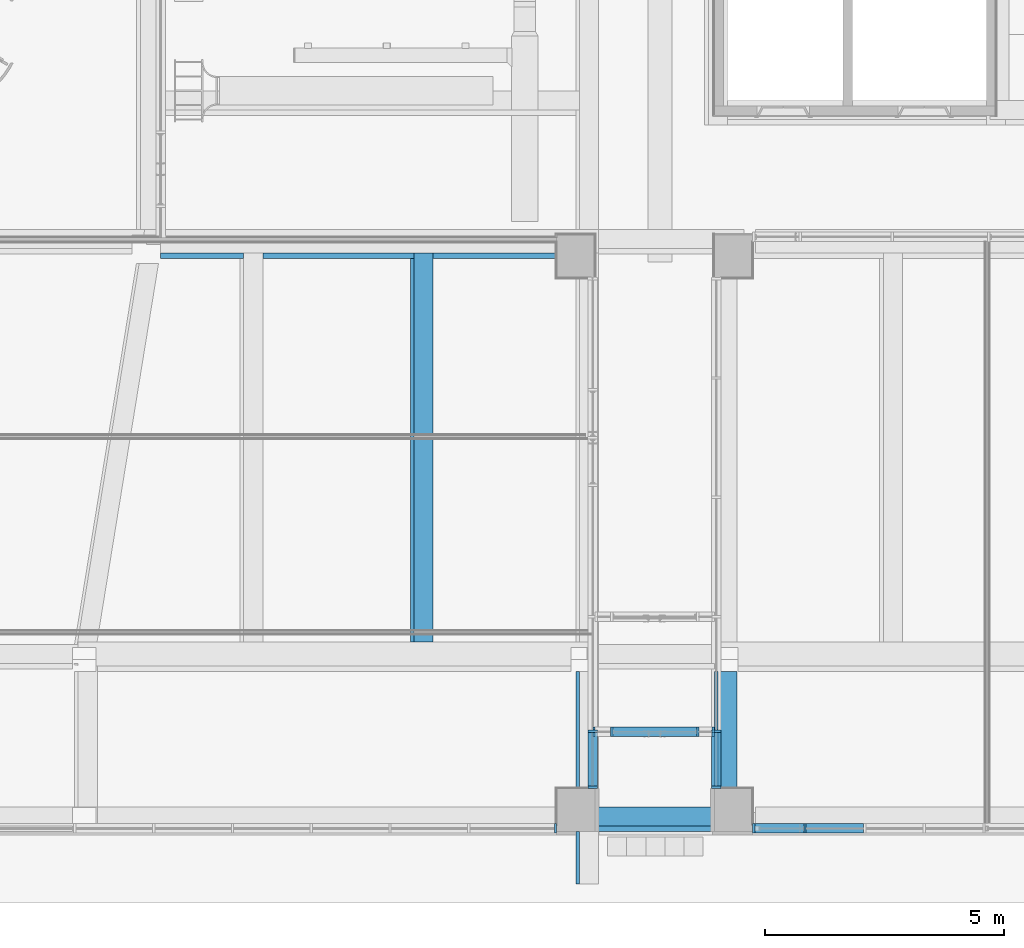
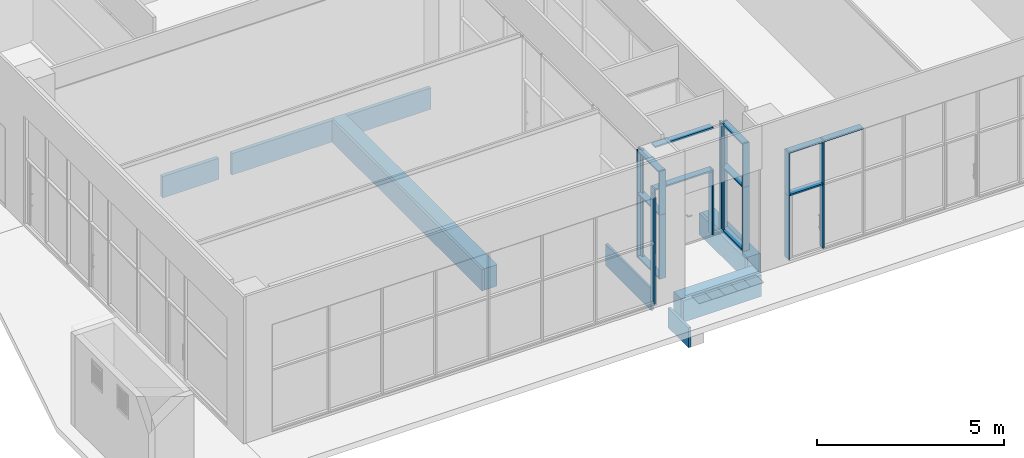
# One storey, part 4 of 100: 31 members, 9 beams, 5 elements without a shape of their own.
"""IFC2X3 building model written with IfcOpenShell, lengths in millimetres."""

from ifc_helpers import new_model, entity, si_unit, converted_unit, derived_unit, direction, frame, frame_2d, origin, origin_2d_with_axis, place, context, subcontext, project, spatial, rectangle, extrude, source, transform, mapped, material, type_object, type_shapes, element, aggregate, save


model = new_model("IFC2X3")

# Units and contexts
model_context = context("Model", 3, precision=0.01, world=origin(), true_north=direction((6.123031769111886e-17, 1.0)))
body_context = subcontext(model_context, "Body", "Model", "MODEL_VIEW")
ifc_project = project(units=[si_unit("LENGTHUNIT", "METRE", prefix="MILLI"), si_unit("AREAUNIT", "SQUARE_METRE"), si_unit("VOLUMEUNIT", "CUBIC_METRE"), converted_unit("PLANEANGLEUNIT", "DEGREE", entity("IfcRatioMeasure", 0.017453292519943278), si_unit("PLANEANGLEUNIT", "RADIAN"), dimensions=[0, 0, 0, 0, 0, 0, 0]), si_unit("MASSUNIT", "GRAM", prefix="KILO"), derived_unit("MASSDENSITYUNIT", [(si_unit("MASSUNIT", "GRAM", prefix="KILO"), 1), (si_unit("LENGTHUNIT", "METRE"), -3)]), derived_unit("MOMENTOFINERTIAUNIT", [(si_unit("LENGTHUNIT", "METRE"), 4)]), si_unit("TIMEUNIT", "SECOND"), si_unit("FREQUENCYUNIT", "HERTZ"), si_unit("THERMODYNAMICTEMPERATUREUNIT", "DEGREE_CELSIUS"), derived_unit("THERMALTRANSMITTANCEUNIT", [(si_unit("MASSUNIT", "GRAM", prefix="KILO"), 1), (si_unit("THERMODYNAMICTEMPERATUREUNIT", "KELVIN"), -1), (si_unit("TIMEUNIT", "SECOND"), -3)]), derived_unit("VOLUMETRICFLOWRATEUNIT", [(si_unit("LENGTHUNIT", "METRE"), 3), (si_unit("TIMEUNIT", "SECOND"), -1)]), derived_unit("MASSFLOWRATEUNIT", [(si_unit("MASSUNIT", "GRAM", prefix="KILO"), 1), (si_unit("TIMEUNIT", "SECOND"), -1)]), derived_unit("ROTATIONALFREQUENCYUNIT", [(si_unit("TIMEUNIT", "SECOND"), -1)]), si_unit("ELECTRICCURRENTUNIT", "AMPERE"), si_unit("ELECTRICVOLTAGEUNIT", "VOLT"), si_unit("POWERUNIT", "WATT"), si_unit("FORCEUNIT", "NEWTON", prefix="KILO"), si_unit("ILLUMINANCEUNIT", "LUX"), si_unit("LUMINOUSFLUXUNIT", "LUMEN"), si_unit("LUMINOUSINTENSITYUNIT", "CANDELA"), derived_unit("USERDEFINED", [(si_unit("MASSUNIT", "GRAM", prefix="KILO"), -1), (si_unit("LENGTHUNIT", "METRE"), -2), (si_unit("TIMEUNIT", "SECOND"), 3), (si_unit("LUMINOUSFLUXUNIT", "LUMEN"), 1)]), derived_unit("SOUNDPOWERUNIT", [(si_unit("MASSUNIT", "GRAM", prefix="KILO"), 1), (si_unit("LENGTHUNIT", "METRE"), 2), (si_unit("TIMEUNIT", "SECOND"), -3)]), derived_unit("SOUNDPRESSUREUNIT", [(si_unit("MASSUNIT", "GRAM", prefix="KILO"), 1), (si_unit("LENGTHUNIT", "METRE"), -1), (si_unit("TIMEUNIT", "SECOND"), -2)]), derived_unit("LINEARVELOCITYUNIT", [(si_unit("LENGTHUNIT", "METRE"), 1), (si_unit("TIMEUNIT", "SECOND"), -1)]), si_unit("PRESSUREUNIT", "PASCAL"), derived_unit("USERDEFINED", [(si_unit("LENGTHUNIT", "METRE"), -2), (si_unit("MASSUNIT", "GRAM", prefix="KILO"), 1), (si_unit("TIMEUNIT", "SECOND"), -2)]), derived_unit("LINEARFORCEUNIT", [(si_unit("MASSUNIT", "GRAM", prefix="KILO"), 1), (si_unit("LENGTHUNIT", "METRE"), 1), (si_unit("TIMEUNIT", "SECOND"), -2), (si_unit("LENGTHUNIT", "METRE"), -1)]), derived_unit("PLANARFORCEUNIT", [(si_unit("MASSUNIT", "GRAM", prefix="KILO"), 1), (si_unit("LENGTHUNIT", "METRE"), 1), (si_unit("TIMEUNIT", "SECOND"), -2), (si_unit("LENGTHUNIT", "METRE"), -2)])], contexts=[model_context])

# Site, building, storey
site_placement = place(None, frame((-14167.972527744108, -657.2125860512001, 0.0)))
site = spatial("IfcSite", under=ifc_project, at=site_placement, Name="Default", CompositionType="ELEMENT")
building_placement = place(site_placement, origin())
building = spatial("IfcBuilding", under=site, at=building_placement, Name="Sample Building", CompositionType="ELEMENT")
storey_placement = place(building_placement, origin())
storey = spatial("IfcBuildingStorey", under=building, at=storey_placement, Name="지상 1층", CompositionType="ELEMENT", Elevation=0.0)

# Curtain wall, member
curtain_wall_type = type_object("IfcCurtainWallType", Name="커튼월:CW112-스테인리스 스틸 커튼월", PredefinedType="NOTDEFINED")
curtain_wall_1_placement = place(storey_placement, origin())
curtain_wall_1 = element("IfcCurtainWall", 1, at=curtain_wall_1_placement, inside=storey, type_object=curtain_wall_type, Name="커튼월:CW112-스테인리스 스틸 커튼월", ObjectType="커튼월:CW112-스테인리스 스틸 커튼월")
ifc_material_1 = material(Name="<Unnamed>")
member_type_1 = type_object("IfcMemberType", Name="직사각형 멀리언:CW200-직사각형 멀리언 50x200mm", PredefinedType="MULLION", material=ifc_material_1)
shared_shape_1 = source(origin(), body_context, "Body", "SweptSolid", [
    extrude(rectangle(XDim=200.0, YDim=50.0, at=origin_2d_with_axis()), frame((-25.0, 0.0, -1420.0), z_axis=(0.0, 0.0, 1.0), x_axis=(0.0, -1.0, 0.0)), (0.0, 0.0, 1.0), 1420.0000000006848),
])
type_shapes(member_type_1, [shared_shape_1])
member_1_placement = place(curtain_wall_1_placement, frame((30867.97249113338, 619.7122951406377, 3600.0), z_axis=(0.0, 0.0, 1.0), x_axis=(-1.0, 0.0, 0.0)))
member_1 = element("IfcMember", 2, at=member_1_placement, type_object=member_type_1, material=ifc_material_1, Name="직사각형 멀리언:CW200-직사각형 멀리언 50x200mm", ObjectType="직사각형 멀리언:CW200-직사각형 멀리언 50x200mm", context=body_context, shape_type="MappedRepresentation", body=[
    mapped(shared_shape_1, transform((0.0, 0.0, 0.0), scale=1.0)),
])

curtain_wall_2_placement = place(storey_placement, origin())
curtain_wall_2 = element("IfcCurtainWall", 3, at=curtain_wall_2_placement, inside=storey, type_object=curtain_wall_type, Name="커튼월:CW112-스테인리스 스틸 커튼월", ObjectType="커튼월:CW112-스테인리스 스틸 커튼월")
member_2_placement = place(curtain_wall_2_placement, frame((27522.9551417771, 1457.2126170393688, 3600.0), z_axis=(0.0, 0.0, 1.0), x_axis=(0.0, -1.0, 0.0)))
member_2 = element("IfcMember", 4, at=member_2_placement, type_object=member_type_1, material=ifc_material_1, Name="직사각형 멀리언:CW200-직사각형 멀리언 50x200mm", ObjectType="직사각형 멀리언:CW200-직사각형 멀리언 50x200mm", context=body_context, shape_type="MappedRepresentation", body=[
    mapped(shared_shape_1, transform((0.0, 0.0, 0.0), scale=1.0)),
])

# Member
member_type_2 = type_object("IfcMemberType", Name="직사각형 멀리언:CW200-직사각형 멀리언 50x200mm", PredefinedType="MULLION", material=ifc_material_1)
shared_shape_2 = source(origin(), body_context, "Body", "SweptSolid", [
    extrude(rectangle(XDim=200.0, YDim=50.0, at=origin_2d_with_axis()), frame((0.0, 0.0, -2100.0), z_axis=(0.0, 0.0, 1.0), x_axis=(0.0, -1.0, 0.0)), (0.0, 0.0, 1.0), 2100.0),
])
type_shapes(member_type_2, [shared_shape_2])
member_3_placement = place(curtain_wall_1_placement, frame((31967.972491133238, 619.7122951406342, 80.0), z_axis=(0.0, 0.0, -1.0), x_axis=(1.0, 0.0, 0.0)))
member_3 = element("IfcMember", 5, at=member_3_placement, type_object=member_type_2, material=ifc_material_1, Name="직사각형 멀리언:CW200-직사각형 멀리언 50x200mm", ObjectType="직사각형 멀리언:CW200-직사각형 멀리언 50x200mm", context=body_context, shape_type="MappedRepresentation", body=[
    mapped(shared_shape_2, transform((0.0, 0.0, 0.0), scale=1.0)),
])

member_4_placement = place(curtain_wall_2_placement, frame((27522.9551417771, 2657.212330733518, 80.0), z_axis=(0.0, 0.0, -1.0), x_axis=(0.0, 1.0, 0.0)))
member_4 = element("IfcMember", 6, at=member_4_placement, type_object=member_type_2, material=ifc_material_1, Name="직사각형 멀리언:CW200-직사각형 멀리언 50x200mm", ObjectType="직사각형 멀리언:CW200-직사각형 멀리언 50x200mm", context=body_context, shape_type="MappedRepresentation", body=[
    mapped(shared_shape_2, transform((0.0, 0.0, 0.0), scale=1.0)),
])

# Curtain wall, members
curtain_wall_3_placement = place(storey_placement, origin())
curtain_wall_3 = element("IfcCurtainWall", 7, at=curtain_wall_3_placement, inside=storey, type_object=curtain_wall_type, Name="커튼월:CW112-스테인리스 스틸 커튼월", ObjectType="커튼월:CW112-스테인리스 스틸 커튼월")
member_5_placement = place(curtain_wall_3_placement, frame((30112.97249113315, 2657.2123307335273, 80.0), z_axis=(0.0, 0.0, -1.0), x_axis=(0.0, -1.0, 0.0)))
member_5 = element("IfcMember", 8, at=member_5_placement, type_object=member_type_2, material=ifc_material_1, Name="직사각형 멀리언:CW200-직사각형 멀리언 50x200mm", ObjectType="직사각형 멀리언:CW200-직사각형 멀리언 50x200mm", context=body_context, shape_type="MappedRepresentation", body=[
    mapped(shared_shape_2, transform((0.0, 0.0, 0.0), scale=1.0)),
])
member_type_3 = type_object("IfcMemberType", Name="직사각형 멀리언:CW200-직사각형 멀리언 50x200mm", PredefinedType="MULLION", material=ifc_material_1)
shared_shape_3 = source(origin(), body_context, "Body", "SweptSolid", [
    extrude(rectangle(XDim=200.0, YDim=50.0, at=origin_2d_with_axis()), frame((-25.0, 0.0, -1420.0), z_axis=(0.0, 0.0, 1.0), x_axis=(0.0, -1.0, 0.0)), (0.0, 0.0, 1.0), 1420.0000000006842),
])
type_shapes(member_type_3, [shared_shape_3])
member_6_placement = place(curtain_wall_3_placement, frame((30112.97249113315, 1457.2123079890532, 2180.0), z_axis=(0.0, 0.0, -1.0), x_axis=(0.0, -1.0, 0.0)))
member_6 = element("IfcMember", 9, at=member_6_placement, type_object=member_type_3, material=ifc_material_1, Name="직사각형 멀리언:CW200-직사각형 멀리언 50x200mm", ObjectType="직사각형 멀리언:CW200-직사각형 멀리언 50x200mm", context=body_context, shape_type="MappedRepresentation", body=[
    mapped(shared_shape_3, transform((0.0, 0.0, 0.0), scale=1.0)),
])

# Member
member_type_4 = type_object("IfcMemberType", Name="직사각형 멀리언:CW200-직사각형 멀리언 50x200mm", PredefinedType="MULLION", material=ifc_material_1)
shared_shape_4 = source(origin(), body_context, "Body", "SweptSolid", [
    extrude(rectangle(XDim=200.0, YDim=50.0, at=origin_2d_with_axis()), frame((-25.0, 0.0, -2100.0), z_axis=(0.0, 0.0, 1.0), x_axis=(0.0, -1.0, 0.0)), (0.0, 0.0, 1.0), 2099.9999999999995),
])
type_shapes(member_type_4, [shared_shape_4])
member_7_placement = place(curtain_wall_2_placement, frame((27522.9551417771, 1457.2126170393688, 2180.0), z_axis=(0.0, 0.0, 1.0), x_axis=(0.0, -1.0, 0.0)))
member_7 = element("IfcMember", 10, at=member_7_placement, type_object=member_type_4, material=ifc_material_1, Name="직사각형 멀리언:CW200-직사각형 멀리언 50x200mm", ObjectType="직사각형 멀리언:CW200-직사각형 멀리언 50x200mm", context=body_context, shape_type="MappedRepresentation", body=[
    mapped(shared_shape_4, transform((0.0, 0.0, 0.0), scale=1.0)),
])

member_type_5 = type_object("IfcMemberType", Name="직사각형 멀리언:CW200-직사각형 멀리언 50x200mm", PredefinedType="MULLION", material=ifc_material_1)
shared_shape_5 = source(origin(), body_context, "Body", "SweptSolid", [
    extrude(rectangle(XDim=200.0, YDim=50.0, at=origin_2d_with_axis()), frame((0.0, 0.0, -1420.0), z_axis=(0.0, 0.0, 1.0), x_axis=(0.0, -1.0, 0.0)), (0.0, 0.0, 1.0), 1420.0000000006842),
])
type_shapes(member_type_5, [shared_shape_5])
member_8_placement = place(curtain_wall_1_placement, frame((31967.97249113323, 619.7122951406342, 2180.0), z_axis=(0.0, 0.0, -1.0), x_axis=(1.0, 0.0, 0.0)))
member_8 = element("IfcMember", 11, at=member_8_placement, type_object=member_type_5, material=ifc_material_1, Name="직사각형 멀리언:CW200-직사각형 멀리언 50x200mm", ObjectType="직사각형 멀리언:CW200-직사각형 멀리언 50x200mm", context=body_context, shape_type="MappedRepresentation", body=[
    mapped(shared_shape_5, transform((0.0, 0.0, 0.0), scale=1.0)),
])

member_9_placement = place(curtain_wall_2_placement, frame((27522.9551417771, 2657.2123307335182, 2180.0), z_axis=(0.0, 0.0, -1.0), x_axis=(0.0, 1.0, 0.0)))
member_9 = element("IfcMember", 12, at=member_9_placement, type_object=member_type_5, material=ifc_material_1, Name="직사각형 멀리언:CW200-직사각형 멀리언 50x200mm", ObjectType="직사각형 멀리언:CW200-직사각형 멀리언 50x200mm", context=body_context, shape_type="MappedRepresentation", body=[
    mapped(shared_shape_5, transform((0.0, 0.0, 0.0), scale=1.0)),
])

member_10_placement = place(curtain_wall_3_placement, frame((30112.97249113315, 2657.2123307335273, 2180.0), z_axis=(0.0, 0.0, -1.0), x_axis=(0.0, -1.0, 0.0)))
member_10 = element("IfcMember", 13, at=member_10_placement, type_object=member_type_5, material=ifc_material_1, Name="직사각형 멀리언:CW200-직사각형 멀리언 50x200mm", ObjectType="직사각형 멀리언:CW200-직사각형 멀리언 50x200mm", context=body_context, shape_type="MappedRepresentation", body=[
    mapped(shared_shape_5, transform((0.0, 0.0, 0.0), scale=1.0)),
])

member_type_6 = type_object("IfcMemberType", Name="직사각형 멀리언:CW200-직사각형 멀리언 50x200mm", PredefinedType="MULLION", material=ifc_material_1)
shared_shape_6 = source(origin(), body_context, "Body", "SweptSolid", [
    extrude(rectangle(XDim=200.0, YDim=50.0, at=origin_2d_with_axis()), frame((-25.0, 0.0, -2100.0), z_axis=(0.0, 0.0, 1.0), x_axis=(0.0, -1.0, 0.0)), (0.0, 0.0, 1.0), 2100.0),
])
type_shapes(member_type_6, [shared_shape_6])
member_11_placement = place(curtain_wall_3_placement, frame((30112.97249113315, 1457.2123079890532, 80.0), z_axis=(0.0, 0.0, -1.0), x_axis=(0.0, -1.0, 0.0)))
member_11 = element("IfcMember", 14, at=member_11_placement, type_object=member_type_6, material=ifc_material_1, Name="직사각형 멀리언:CW200-직사각형 멀리언 50x200mm", ObjectType="직사각형 멀리언:CW200-직사각형 멀리언 50x200mm", context=body_context, shape_type="MappedRepresentation", body=[
    mapped(shared_shape_6, transform((0.0, 0.0, 0.0), scale=1.0)),
])

member_type_7 = type_object("IfcMemberType", Name="직사각형 멀리언:CW200-직사각형 멀리언 50x200mm", PredefinedType="MULLION", material=ifc_material_1)
shared_shape_7 = source(origin(), body_context, "Body", "SweptSolid", [
    extrude(rectangle(XDim=200.0, YDim=50.0, at=origin_2d_with_axis()), frame((-25.0, 0.0, -2100.0), z_axis=(0.0, 0.0, 1.0), x_axis=(0.0, -1.0, 0.0)), (0.0, 0.0, 1.0), 2099.9999999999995),
])
type_shapes(member_type_7, [shared_shape_7])
member_12_placement = place(curtain_wall_1_placement, frame((30867.97249113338, 619.7122951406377, 2180.0), z_axis=(0.0, 0.0, 1.0), x_axis=(-1.0, 0.0, 0.0)))
member_12 = element("IfcMember", 15, at=member_12_placement, type_object=member_type_7, material=ifc_material_1, Name="직사각형 멀리언:CW200-직사각형 멀리언 50x200mm", ObjectType="직사각형 멀리언:CW200-직사각형 멀리언 50x200mm", context=body_context, shape_type="MappedRepresentation", body=[
    mapped(shared_shape_7, transform((0.0, 0.0, 0.0), scale=1.0)),
])

member_type_8 = type_object("IfcMemberType", Name="직사각형 멀리언:CW200-직사각형 멀리언 50x200mm", PredefinedType="MULLION", material=ifc_material_1)
shared_shape_8 = source(origin(), body_context, "Body", "SweptSolid", [
    extrude(rectangle(XDim=200.0, YDim=50.0, at=origin_2d_with_axis()), frame((0.0, 0.0, -1025.0172668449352), z_axis=(0.0, 0.0, 1.0), x_axis=(0.0, -1.0, 0.0)), (0.0, 0.0, 1.0), 1025.017266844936),
])
type_shapes(member_type_8, [shared_shape_8])
member_13_placement = place(curtain_wall_1_placement, frame((31942.972491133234, 619.7122951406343, 2180.0), z_axis=(1.0, 0.0, 0.0), x_axis=(0.0, 0.0, 1.0)))
member_13 = element("IfcMember", 16, at=member_13_placement, type_object=member_type_8, material=ifc_material_1, Name="직사각형 멀리언:CW200-직사각형 멀리언 50x200mm", ObjectType="직사각형 멀리언:CW200-직사각형 멀리언 50x200mm", context=body_context, shape_type="MappedRepresentation", body=[
    mapped(shared_shape_8, transform((0.0, 0.0, 0.0), scale=1.0)),
])

member_type_9 = type_object("IfcMemberType", Name="직사각형 멀리언:CW200-직사각형 멀리언 50x200mm", PredefinedType="MULLION", material=ifc_material_1)
shared_shape_9 = source(origin(), body_context, "Body", "SweptSolid", [
    extrude(rectangle(XDim=200.0, YDim=50.0, at=origin_2d_with_axis()), frame((-25.0, 0.0, -1025.0172668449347), z_axis=(0.0, 0.0, 1.0), x_axis=(0.0, -1.0, 0.0)), (0.0, 0.0, 1.0), 1025.0172668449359),
])
type_shapes(member_type_9, [shared_shape_9])
member_14_placement = place(curtain_wall_1_placement, frame((31942.972491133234, 619.7122951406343, 3600.0), z_axis=(1.0, 0.0, 0.0), x_axis=(0.0, 0.0, 1.0)))
member_14 = element("IfcMember", 17, at=member_14_placement, type_object=member_type_9, material=ifc_material_1, Name="직사각형 멀리언:CW200-직사각형 멀리언 50x200mm", ObjectType="직사각형 멀리언:CW200-직사각형 멀리언 50x200mm", context=body_context, shape_type="MappedRepresentation", body=[
    mapped(shared_shape_9, transform((0.0, 0.0, 0.0), scale=1.0)),
])

# Curtain wall, members
curtain_wall_4_placement = place(storey_placement, origin())
curtain_wall_4 = element("IfcCurtainWall", 18, at=curtain_wall_4_placement, inside=storey, type_object=curtain_wall_type, Name="커튼월:CW112-스테인리스 스틸 커튼월", ObjectType="커튼월:CW112-스테인리스 스틸 커튼월")
member_type_10 = type_object("IfcMemberType", Name="직사각형 멀리언:CW200-직사각형 멀리언 50x200mm", PredefinedType="MULLION", material=ifc_material_1)
shared_shape_10 = source(origin(), body_context, "Body", "SweptSolid", [
    extrude(rectangle(XDim=200.0, YDim=50.0, at=origin_2d_with_axis()), frame((-25.0, 0.0, -2000.0), z_axis=(0.0, 0.0, 1.0), x_axis=(0.0, -1.0, 0.0)), (0.0, 0.0, 1.0), 1999.9999999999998),
])
type_shapes(member_type_10, [shared_shape_10])
member_15_placement = place(curtain_wall_4_placement, frame((26767.97249113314, 619.7122951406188, 80.0), z_axis=(0.0, 0.0, -1.0), x_axis=(1.0, 0.0, 0.0)))
member_15 = element("IfcMember", 19, at=member_15_placement, type_object=member_type_10, material=ifc_material_1, Name="직사각형 멀리언:CW200-직사각형 멀리언 50x200mm", ObjectType="직사각형 멀리언:CW200-직사각형 멀리언 50x200mm", context=body_context, shape_type="MappedRepresentation", body=[
    mapped(shared_shape_10, transform((0.0, 0.0, 0.0), scale=1.0)),
])
member_type_11 = type_object("IfcMemberType", Name="직사각형 멀리언:CW200-직사각형 멀리언 50x200mm", PredefinedType="MULLION", material=ifc_material_1)
shared_shape_11 = source(origin(), body_context, "Body", "SweptSolid", [
    extrude(rectangle(XDim=200.0, YDim=50.0, at=origin_2d_with_axis()), frame((-25.0, 0.0, -1520.0), z_axis=(0.0, 0.0, 1.0), x_axis=(0.0, -1.0, 0.0)), (0.0, 0.0, 1.0), 1520.0000000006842),
])
type_shapes(member_type_11, [shared_shape_11])
member_16_placement = place(curtain_wall_4_placement, frame((26767.97249113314, 619.7122951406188, 2080.0), z_axis=(0.0, 0.0, -1.0), x_axis=(1.0, 0.0, 0.0)))
member_16 = element("IfcMember", 20, at=member_16_placement, type_object=member_type_11, material=ifc_material_1, Name="직사각형 멀리언:CW200-직사각형 멀리언 50x200mm", ObjectType="직사각형 멀리언:CW200-직사각형 멀리언 50x200mm", context=body_context, shape_type="MappedRepresentation", body=[
    mapped(shared_shape_11, transform((0.0, 0.0, 0.0), scale=1.0)),
])
aggregate(curtain_wall_4, [member_15, member_16])

# Member
member_type_12 = type_object("IfcMemberType", Name="직사각형 멀리언:CW200-직사각형 멀리언 50x200mm", PredefinedType="MULLION", material=ifc_material_1)
shared_shape_12 = source(origin(), body_context, "Body", "SweptSolid", [
    extrude(rectangle(XDim=200.0, YDim=50.0, at=origin_2d_with_axis()), frame((-25.0, 0.0, -1200.0), z_axis=(0.0, 0.0, 1.0), x_axis=(0.0, -1.0, 0.0)), (0.0, 0.0, 1.0), 1200.0000000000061),
])
type_shapes(member_type_12, [shared_shape_12])
member_17_placement = place(curtain_wall_1_placement, frame((33192.97249113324, 619.7122951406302, 3600.0), z_axis=(1.0, 0.0, 0.0), x_axis=(0.0, 0.0, 1.0)))
member_17 = element("IfcMember", 21, at=member_17_placement, type_object=member_type_12, material=ifc_material_1, Name="직사각형 멀리언:CW200-직사각형 멀리언 50x200mm", ObjectType="직사각형 멀리언:CW200-직사각형 멀리언 50x200mm", context=body_context, shape_type="MappedRepresentation", body=[
    mapped(shared_shape_12, transform((0.0, 0.0, 0.0), scale=1.0)),
])

aggregate(curtain_wall_1, [member_1, member_17, member_12, member_13, member_14, member_3, member_8])

# Curtain wall, members
curtain_wall_5_placement = place(storey_placement, origin())
curtain_wall_5 = element("IfcCurtainWall", 22, at=curtain_wall_5_placement, inside=storey, type_object=curtain_wall_type, Name="커튼월:CW112-스테인리스 스틸 커튼월", ObjectType="커튼월:CW112-스테인리스 스틸 커튼월")
member_type_13 = type_object("IfcMemberType", Name="직사각형 멀리언:CW200-직사각형 멀리언 50x200mm", PredefinedType="MULLION", material=ifc_material_1)
shared_shape_13 = source(origin(), body_context, "Body", "SweptSolid", [
    extrude(rectangle(XDim=200.0, YDim=50.0, at=origin_2d_with_axis()), frame((-25.0, 0.0, -2100.0), z_axis=(0.0, 0.0, 1.0), x_axis=(0.0, -1.0, 0.0)), (0.0, 0.0, 1.0), 2100.0),
])
type_shapes(member_type_13, [shared_shape_13])
member_18_placement = place(curtain_wall_5_placement, frame((27522.955141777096, 2645.1776243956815, 80.0), z_axis=(0.0, 0.0, -1.0), x_axis=(-1.0, 0.0, 0.0)))
member_18 = element("IfcMember", 23, at=member_18_placement, type_object=member_type_13, material=ifc_material_1, Name="직사각형 멀리언:CW200-직사각형 멀리언 50x200mm", ObjectType="직사각형 멀리언:CW200-직사각형 멀리언 50x200mm", context=body_context, shape_type="MappedRepresentation", body=[
    mapped(shared_shape_13, transform((0.0, 0.0, 0.0), scale=1.0)),
])
member_type_14 = type_object("IfcMemberType", Name="직사각형 멀리언:CW200-직사각형 멀리언 50x200mm", PredefinedType="MULLION", material=ifc_material_1)
shared_shape_14 = source(origin(), body_context, "Body", "SweptSolid", [
    extrude(rectangle(XDim=200.0, YDim=50.0, at=origin_2d_with_axis()), frame((-25.0, 0.0, -1799.9999120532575), z_axis=(0.0, 0.0, 1.0), x_axis=(0.0, -1.0, 0.0)), (0.0, 0.0, 1.0), 1799.9999120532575),
])
type_shapes(member_type_14, [shared_shape_14])
member_19_placement = place(curtain_wall_5_placement, frame((27918.07291545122, 2645.17762439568, 3600.0), z_axis=(-1.0, 0.0, 0.0), x_axis=(0.0, 0.0, 1.0)))
member_19 = element("IfcMember", 24, at=member_19_placement, type_object=member_type_14, material=ifc_material_1, Name="직사각형 멀리언:CW200-직사각형 멀리언 50x200mm", ObjectType="직사각형 멀리언:CW200-직사각형 멀리언 50x200mm", context=body_context, shape_type="MappedRepresentation", body=[
    mapped(shared_shape_14, transform((0.0, 0.0, 0.0), scale=1.0)),
])
member_type_15 = type_object("IfcMemberType", Name="직사각형 멀리언:CW200-직사각형 멀리언 50x200mm", PredefinedType="MULLION", material=ifc_material_1)
shared_shape_15 = source(origin(), body_context, "Body", "SweptSolid", [
    extrude(rectangle(XDim=200.0, YDim=50.0, at=origin_2d_with_axis()), frame((0.0, 0.0, -2125.0), z_axis=(0.0, 0.0, 1.0), x_axis=(0.0, -1.0, 0.0)), (0.0, 0.0, 1.0), 2125.0),
])
type_shapes(member_type_15, [shared_shape_15])
member_20_placement = place(curtain_wall_5_placement, frame((27918.07291545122, 2645.17762439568, 80.0), z_axis=(0.0, 0.0, -1.0), x_axis=(-1.0, 0.0, 0.0)))
member_20 = element("IfcMember", 25, at=member_20_placement, type_object=member_type_15, material=ifc_material_1, Name="직사각형 멀리언:CW200-직사각형 멀리언 50x200mm", ObjectType="직사각형 멀리언:CW200-직사각형 멀리언 50x200mm", context=body_context, shape_type="MappedRepresentation", body=[
    mapped(shared_shape_15, transform((0.0, 0.0, 0.0), scale=1.0)),
])
member_21_placement = place(curtain_wall_5_placement, frame((29718.072915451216, 2645.1776243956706, 80.0), z_axis=(0.0, 0.0, -1.0), x_axis=(-1.0, 0.0, 0.0)))
member_21 = element("IfcMember", 26, at=member_21_placement, type_object=member_type_15, material=ifc_material_1, Name="직사각형 멀리언:CW200-직사각형 멀리언 50x200mm", ObjectType="직사각형 멀리언:CW200-직사각형 멀리언 50x200mm", context=body_context, shape_type="MappedRepresentation", body=[
    mapped(shared_shape_15, transform((0.0, 0.0, 0.0), scale=1.0)),
])
member_type_16 = type_object("IfcMemberType", Name="직사각형 멀리언:CW200-직사각형 멀리언 50x200mm", PredefinedType="MULLION", material=ifc_material_1)
shared_shape_16 = source(origin(), body_context, "Body", "SweptSolid", [
    extrude(rectangle(XDim=200.0, YDim=50.0, at=origin_2d_with_axis()), frame((-25.0, 0.0, -2100.0), z_axis=(0.0, 0.0, 1.0), x_axis=(0.0, -1.0, 0.0)), (0.0, 0.0, 1.0), 2100.0),
])
type_shapes(member_type_16, [shared_shape_16])
member_22_placement = place(curtain_wall_5_placement, frame((30067.972491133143, 2645.1776243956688, 2180.0)))
member_22 = element("IfcMember", 27, at=member_22_placement, type_object=member_type_16, material=ifc_material_1, Name="직사각형 멀리언:CW200-직사각형 멀리언 50x200mm", ObjectType="직사각형 멀리언:CW200-직사각형 멀리언 50x200mm", context=body_context, shape_type="MappedRepresentation", body=[
    mapped(shared_shape_16, transform((0.0, 0.0, 0.0), scale=1.0)),
])
member_type_17 = type_object("IfcMemberType", Name="직사각형 멀리언:CW200-직사각형 멀리언 50x200mm", PredefinedType="MULLION", material=ifc_material_1)
shared_shape_17 = source(origin(), body_context, "Body", "SweptSolid", [
    extrude(rectangle(XDim=200.0, YDim=50.0, at=origin_2d_with_axis()), frame((0.0, 0.0, -1749.9999120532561), z_axis=(0.0, 0.0, 1.0), x_axis=(0.0, -1.0, 0.0)), (0.0, 0.0, 1.0), 1749.999912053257),
])
type_shapes(member_type_17, [shared_shape_17])
member_23_placement = place(curtain_wall_5_placement, frame((27943.07291545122, 2645.17762439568, 2180.0), z_axis=(-1.0, 0.0, 0.0), x_axis=(0.0, 0.0, 1.0)))
member_23 = element("IfcMember", 28, at=member_23_placement, type_object=member_type_17, material=ifc_material_1, Name="직사각형 멀리언:CW200-직사각형 멀리언 50x200mm", ObjectType="직사각형 멀리언:CW200-직사각형 멀리언 50x200mm", context=body_context, shape_type="MappedRepresentation", body=[
    mapped(shared_shape_17, transform((0.0, 0.0, 0.0), scale=1.0)),
])
member_type_18 = type_object("IfcMemberType", Name="직사각형 멀리언:CW200-직사각형 멀리언 50x200mm", PredefinedType="MULLION", material=ifc_material_1)
shared_shape_18 = source(origin(), body_context, "Body", "SweptSolid", [
    extrude(rectangle(XDim=200.0, YDim=50.0, at=origin_2d_with_axis()), frame((-25.0, 0.0, -1420.0), z_axis=(0.0, 0.0, 1.0), x_axis=(0.0, -1.0, 0.0)), (0.0, 0.0, 1.0), 1420.0000000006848),
])
type_shapes(member_type_18, [shared_shape_18])
member_24_placement = place(curtain_wall_5_placement, frame((30067.972491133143, 2645.1776243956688, 3600.0)))
member_24 = element("IfcMember", 29, at=member_24_placement, type_object=member_type_18, material=ifc_material_1, Name="직사각형 멀리언:CW200-직사각형 멀리언 50x200mm", ObjectType="직사각형 멀리언:CW200-직사각형 멀리언 50x200mm", context=body_context, shape_type="MappedRepresentation", body=[
    mapped(shared_shape_18, transform((0.0, 0.0, 0.0), scale=1.0)),
])
member_type_19 = type_object("IfcMemberType", Name="직사각형 멀리언:CW200-직사각형 멀리언 50x200mm", PredefinedType="MULLION", material=ifc_material_1)
shared_shape_19 = source(origin(), body_context, "Body", "SweptSolid", [
    extrude(rectangle(XDim=200.0, YDim=50.0, at=origin_2d_with_axis()), frame((-25.0, 0.0, -1420.0), z_axis=(0.0, 0.0, 1.0), x_axis=(0.0, -1.0, 0.0)), (0.0, 0.0, 1.0), 1420.0000000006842),
])
type_shapes(member_type_19, [shared_shape_19])
member_25_placement = place(curtain_wall_5_placement, frame((27522.955141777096, 2645.1776243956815, 2180.0), z_axis=(0.0, 0.0, -1.0), x_axis=(-1.0, 0.0, 0.0)))
member_25 = element("IfcMember", 30, at=member_25_placement, type_object=member_type_19, material=ifc_material_1, Name="직사각형 멀리언:CW200-직사각형 멀리언 50x200mm", ObjectType="직사각형 멀리언:CW200-직사각형 멀리언 50x200mm", context=body_context, shape_type="MappedRepresentation", body=[
    mapped(shared_shape_19, transform((0.0, 0.0, 0.0), scale=1.0)),
])
aggregate(curtain_wall_5, [member_18, member_24, member_19, member_20, member_21, member_25, member_22, member_23])

# Member
member_type_20 = type_object("IfcMemberType", Name="직사각형 멀리언:CW200-직사각형 멀리언 50x200mm", PredefinedType="MULLION", material=ifc_material_1)
shared_shape_20 = source(origin(), body_context, "Body", "SweptSolid", [
    extrude(rectangle(XDim=200.0, YDim=50.0, at=origin_2d_with_axis()), frame((-25.0, 0.0, -1125.0004446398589), z_axis=(0.0, 0.0, 1.0), x_axis=(0.0, -1.0, 0.0)), (0.0, 0.0, 1.0), 1125.0004446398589),
])
type_shapes(member_type_20, [shared_shape_20])
member_26_placement = place(curtain_wall_2_placement, frame((27522.9551417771, 1507.2126170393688, 80.0), z_axis=(0.0, -1.0, 0.0), x_axis=(0.0, 0.0, -1.0)))
member_26 = element("IfcMember", 31, at=member_26_placement, type_object=member_type_20, material=ifc_material_1, Name="직사각형 멀리언:CW200-직사각형 멀리언 50x200mm", ObjectType="직사각형 멀리언:CW200-직사각형 멀리언 50x200mm", context=body_context, shape_type="MappedRepresentation", body=[
    mapped(shared_shape_20, transform((0.0, 0.0, 0.0), scale=1.0)),
])

member_27_placement = place(curtain_wall_3_placement, frame((30112.97249113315, 2632.212330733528, 80.0), z_axis=(0.0, 1.0, 0.0), x_axis=(0.0, 0.0, -1.0)))
member_27 = element("IfcMember", 32, at=member_27_placement, type_object=member_type_20, material=ifc_material_1, Name="직사각형 멀리언:CW200-직사각형 멀리언 50x200mm", ObjectType="직사각형 멀리언:CW200-직사각형 멀리언 50x200mm", context=body_context, shape_type="MappedRepresentation", body=[
    mapped(shared_shape_20, transform((0.0, 0.0, 0.0), scale=1.0)),
])

member_type_21 = type_object("IfcMemberType", Name="직사각형 멀리언:CW200-직사각형 멀리언 50x200mm", PredefinedType="MULLION", material=ifc_material_1)
shared_shape_21 = source(origin(), body_context, "Body", "SweptSolid", [
    extrude(rectangle(XDim=200.0, YDim=50.0, at=origin_2d_with_axis()), frame((-25.0, 0.0, -1125.000444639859), z_axis=(0.0, 0.0, 1.0), x_axis=(0.0, -1.0, 0.0)), (0.0, 0.0, 1.0), 1125.000444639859),
])
type_shapes(member_type_21, [shared_shape_21])
member_28_placement = place(curtain_wall_2_placement, frame((27522.9551417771, 2632.212330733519, 3600.0), z_axis=(0.0, 1.0, 0.0), x_axis=(0.0, 0.0, 1.0)))
member_28 = element("IfcMember", 33, at=member_28_placement, type_object=member_type_21, material=ifc_material_1, Name="직사각형 멀리언:CW200-직사각형 멀리언 50x200mm", ObjectType="직사각형 멀리언:CW200-직사각형 멀리언 50x200mm", context=body_context, shape_type="MappedRepresentation", body=[
    mapped(shared_shape_21, transform((0.0, 0.0, 0.0), scale=1.0)),
])

member_29_placement = place(curtain_wall_3_placement, frame((30112.97249113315, 1507.2123079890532, 3600.0), z_axis=(0.0, -1.0, 0.0), x_axis=(0.0, 0.0, 1.0)))
member_29 = element("IfcMember", 34, at=member_29_placement, type_object=member_type_21, material=ifc_material_1, Name="직사각형 멀리언:CW200-직사각형 멀리언 50x200mm", ObjectType="직사각형 멀리언:CW200-직사각형 멀리언 50x200mm", context=body_context, shape_type="MappedRepresentation", body=[
    mapped(shared_shape_21, transform((0.0, 0.0, 0.0), scale=1.0)),
])

member_type_22 = type_object("IfcMemberType", Name="직사각형 멀리언:CW200-직사각형 멀리언 50x200mm", PredefinedType="MULLION", material=ifc_material_1)
shared_shape_22 = source(origin(), body_context, "Body", "SweptSolid", [
    extrude(rectangle(XDim=200.0, YDim=50.0, at=origin_2d_with_axis()), frame((0.0, 0.0, -1125.000444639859), z_axis=(0.0, 0.0, 1.0), x_axis=(0.0, -1.0, 0.0)), (0.0, 0.0, 1.0), 1125.0004446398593),
])
type_shapes(member_type_22, [shared_shape_22])
member_30_placement = place(curtain_wall_2_placement, frame((27522.9551417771, 2632.212330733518, 2180.0), z_axis=(0.0, 1.0, 0.0), x_axis=(0.0, 0.0, 1.0)))
member_30 = element("IfcMember", 35, at=member_30_placement, type_object=member_type_22, material=ifc_material_1, Name="직사각형 멀리언:CW200-직사각형 멀리언 50x200mm", ObjectType="직사각형 멀리언:CW200-직사각형 멀리언 50x200mm", context=body_context, shape_type="MappedRepresentation", body=[
    mapped(shared_shape_22, transform((0.0, 0.0, 0.0), scale=1.0)),
])

aggregate(curtain_wall_2, [member_26, member_2, member_28, member_4, member_7, member_30, member_9])

member_31_placement = place(curtain_wall_3_placement, frame((30112.97249113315, 1507.2123079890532, 2180.0), z_axis=(0.0, -1.0, 0.0), x_axis=(0.0, 0.0, 1.0)))
member_31 = element("IfcMember", 36, at=member_31_placement, type_object=member_type_22, material=ifc_material_1, Name="직사각형 멀리언:CW200-직사각형 멀리언 50x200mm", ObjectType="직사각형 멀리언:CW200-직사각형 멀리언 50x200mm", context=body_context, shape_type="MappedRepresentation", body=[
    mapped(shared_shape_22, transform((0.0, 0.0, 0.0), scale=1.0)),
])

aggregate(curtain_wall_3, [member_29, member_11, member_27, member_5, member_6, member_31, member_10])

# Beams
ifc_material_2 = material(Name="KBIMS-콘크리트")
beam_type_1 = type_object("IfcBeamType", Name="BM111-철근콘크리트구조 보:BM110-철근 콘크리트구조 보_400 x 850_B1-1G3", PredefinedType="NOTDEFINED")
beam_1_placement = place(storey_placement, frame((30693.254592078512, 871.0771023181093, 0.0), z_axis=(0.0, 0.0, 1.0), x_axis=(-1.0, 0.0, 0.0)))
element("IfcBeam", 37, at=beam_1_placement, inside=storey, type_object=beam_type_1, material=ifc_material_2, Name="BM111-철근콘크리트구조 보:BM110-철근 콘크리트구조 보_400 x 850_B1-1G3", ObjectType="BM111-철근콘크리트구조 보:BM110-철근 콘크리트구조 보_400 x 850_B1-1G3", context=body_context, shape_type="SweptSolid", body=[
    extrude(rectangle(XDim=700.0000000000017, YDim=400.00000000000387, at=frame_2d((0.0, -2.7000623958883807e-13), x_axis=(1.0, 0.0))), frame((625.2994503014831, 0.0, -500.0), z_axis=(1.0, 0.0, 0.0), x_axis=(0.0, 0.0, -1.0)), (0.0, 0.0, 1.0), 2424.717935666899),
])
beam_2_placement = place(storey_placement, frame((30343.23720611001, 1121.0771151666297, 0.0), z_axis=(0.0, 0.0, 1.0), x_axis=(0.0, 1.0, 0.0)))
element("IfcBeam", 38, at=beam_2_placement, inside=storey, type_object=beam_type_1, material=ifc_material_2, Name="BM111-철근콘크리트구조 보:BM110-철근 콘크리트구조 보_400 x 850_B1-1G3", ObjectType="BM111-철근콘크리트구조 보:BM110-철근 콘크리트구조 보_400 x 850_B1-1G3", context=body_context, shape_type="SweptSolid", body=[
    extrude(rectangle(XDim=700.0000000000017, YDim=400.0000000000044, at=origin_2d_with_axis()), frame((336.13507997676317, 0.0, -500.0), z_axis=(1.0, 0.0, 0.0), x_axis=(0.0, 0.0, -1.0)), (0.0, 0.0, 1.0), 2450.0004969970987),
])
beam_3_placement = place(storey_placement, frame((27367.937755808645, 1007.2121822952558, 0.0), z_axis=(0.0, 0.0, 1.0), x_axis=(0.0, 1.0, 0.0)))
element("IfcBeam", 39, at=beam_3_placement, inside=storey, type_object=beam_type_1, material=ifc_material_2, Name="BM111-철근콘크리트구조 보:BM110-철근 콘크리트구조 보_400 x 850_B1-1G3", ObjectType="BM111-철근콘크리트구조 보:BM110-철근 콘크리트구조 보_400 x 850_B1-1G3", context=body_context, shape_type="SweptSolid", body=[
    extrude(rectangle(XDim=700.0000000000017, YDim=75.29945030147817, at=frame_2d((0.0, 2.163602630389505e-12), x_axis=(1.0, 0.0))), frame((450.0, 162.35027484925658, -500.0), z_axis=(1.0, 0.0, 0.0), x_axis=(0.0, 0.0, -1.0)), (0.0, 0.0, 1.0), 2450.000509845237),
])
beam_4_placement = place(storey_placement, frame((30617.955141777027, 757.2126041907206, 0.0), z_axis=(0.0, 0.0, 1.0), x_axis=(-1.0, 0.0, 0.0)))
element("IfcBeam", 40, at=beam_4_placement, inside=storey, type_object=beam_type_1, material=ifc_material_2, Name="BM111-철근콘크리트구조 보:BM110-철근 콘크리트구조 보_400 x 850_B1-1G3", ObjectType="BM111-철근콘크리트구조 보:BM110-철근 콘크리트구조 보_400 x 850_B1-1G3", context=body_context, shape_type="SweptSolid", body=[
    extrude(rectangle(XDim=700.0000000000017, YDim=113.86449812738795, at=frame_2d((0.0, 1.6697754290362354e-13), x_axis=(1.0, 0.0))), frame((550.0, 143.06775093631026, -500.0), z_axis=(1.0, 0.0, 0.0), x_axis=(0.0, 0.0, -1.0)), (0.0, 0.0, 1.0), 2424.717935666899),
])
beam_5_placement = place(storey_placement, frame((30267.937755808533, 1007.2126170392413, 0.0), z_axis=(0.0, 0.0, 1.0), x_axis=(0.0, 1.0, 0.0)))
element("IfcBeam", 41, at=beam_5_placement, inside=storey, type_object=beam_type_1, material=ifc_material_2, Name="BM111-철근콘크리트구조 보:BM110-철근 콘크리트구조 보_400 x 850_B1-1G3", ObjectType="BM111-철근콘크리트구조 보:BM110-철근 콘크리트구조 보_400 x 850_B1-1G3", context=body_context, shape_type="SweptSolid", body=[
    extrude(rectangle(XDim=700.0000000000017, YDim=75.29945030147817, at=frame_2d((0.0, 2.163602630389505e-12), x_axis=(1.0, 0.0))), frame((449.99957810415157, 162.35027484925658, -500.0), z_axis=(1.0, 0.0, 0.0), x_axis=(0.0, 0.0, -1.0)), (0.0, 0.0, 1.0), 2450.0004969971),
])
beam_6_placement = place(storey_placement, frame((27367.937755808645, 1007.2121822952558, 0.0), z_axis=(0.0, 0.0, 1.0), x_axis=(0.0, -1.0, 0.0)))
element("IfcBeam", 42, at=beam_6_placement, inside=storey, type_object=beam_type_1, material=ifc_material_2, Name="BM111-철근콘크리트구조 보:BM110-철근 콘크리트구조 보_400 x 850_B1-1G3", ObjectType="BM111-철근콘크리트구조 보:BM110-철근 콘크리트구조 보_400 x 850_B1-1G3", context=body_context, shape_type="SweptSolid", body=[
    extrude(rectangle(XDim=650.0000000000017, YDim=75.29945030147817, at=frame_2d((0.0, -2.163602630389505e-12), x_axis=(1.0, 0.0))), frame((449.9995781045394, -162.35027484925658, -525.0), z_axis=(1.0, 0.0, 0.0), x_axis=(0.0, 0.0, -1.0)), (0.0, 0.0, 1.0), 1100.0002962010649),
])
beam_type_2 = type_object("IfcBeamType", Name="BM111-철근콘크리트구조 보:BM110-철근 콘크리트구조 보_400 x 800_B1-1B2", PredefinedType="NOTDEFINED")
beam_7_placement = place(storey_placement, frame((23976.595748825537, 12921.077049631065, 0.0), z_axis=(0.0, 0.0, 1.0), x_axis=(0.0, -1.0, 0.0)))
element("IfcBeam", 43, at=beam_7_placement, inside=storey, type_object=beam_type_2, material=ifc_material_2, Name="BM111-철근콘크리트구조 보:BM110-철근 콘크리트구조 보_400 x 800_B1-1B2", ObjectType="BM111-철근콘크리트구조 보:BM110-철근 콘크리트구조 보_400 x 800_B1-1B2", context=body_context, shape_type="SweptSolid", body=[
    extrude(rectangle(XDim=700.0000000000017, YDim=400.0, at=frame_2d((0.0, 2.1742607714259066e-12), x_axis=(1.0, 0.0))), frame((250.0, 0.0, -500.0), z_axis=(1.0, 0.0, 0.0), x_axis=(0.0, 0.0, -1.0)), (0.0, 0.0, 1.0), 8149.999859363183),
])
beam_8_placement = place(storey_placement, frame((23901.29629852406, 12807.212551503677, 0.0), z_axis=(0.0, 0.0, 1.0), x_axis=(0.0, -1.0, 0.0)))
element("IfcBeam", 44, at=beam_8_placement, inside=storey, type_object=beam_type_2, material=ifc_material_2, Name="BM111-철근콘크리트구조 보:BM110-철근 콘크리트구조 보_400 x 800_B1-1B2", ObjectType="BM111-철근콘크리트구조 보:BM110-철근 콘크리트구조 보_400 x 800_B1-1B2", context=body_context, shape_type="SweptSolid", body=[
    extrude(rectangle(XDim=700.0000000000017, YDim=75.29945030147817, at=frame_2d((0.0, -2.163602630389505e-12), x_axis=(1.0, 0.0))), frame((250.0, -162.35027484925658, -500.0), z_axis=(1.0, 0.0, 0.0), x_axis=(0.0, 0.0, -1.0)), (0.0, 0.0, 1.0), 8036.135361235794),
])
beam_type_3 = type_object("IfcBeamType", Name="BM111-철근콘크리트구조 보:BM110-철근 콘크리트구조 보_500 x 850_B1-1G5", PredefinedType="BEAM", material=ifc_material_2)
shared_shape_23 = source(origin(), body_context, "Body", "SweptSolid", [
    extrude(rectangle(XDim=700.0000000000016, YDim=113.86449812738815, at=origin_2d_with_axis()), frame((20209.929082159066, 12614.144800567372, -500.0), z_axis=(-1.0, 0.0, 0.0), x_axis=(0.0, 0.0, -1.0)), (0.0, 0.0, 1.0), 1741.9826333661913),
    extrude(rectangle(XDim=700.0000000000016, YDim=113.86449812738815, at=origin_2d_with_axis()), frame((26767.955141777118, 12614.144800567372, -500.0), z_axis=(-1.0, 0.0, 0.0), x_axis=(0.0, 0.0, -1.0)), (0.0, 0.0, 1.0), 2591.3593929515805),
    extrude(rectangle(XDim=700.0000000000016, YDim=113.86449812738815, at=origin_2d_with_axis()), frame((23776.595748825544, 12614.144800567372, -500.0), z_axis=(-1.0, 0.0, 0.0), x_axis=(0.0, 0.0, -1.0)), (0.0, 0.0, 1.0), 3166.6666666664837),
])
type_shapes(beam_type_3, [shared_shape_23])
beam_9_placement = place(storey_placement, origin())
element("IfcBeam", 45, at=beam_9_placement, inside=storey, type_object=beam_type_3, material=ifc_material_2, Name="BM111-철근콘크리트구조 보:BM110-철근 콘크리트구조 보_500 x 850_B1-1G5", ObjectType="BM111-철근콘크리트구조 보:BM110-철근 콘크리트구조 보_500 x 850_B1-1G5", context=body_context, shape_type="MappedRepresentation", body=[
    mapped(shared_shape_23, transform((0.0, 0.0, 0.0), scale=1.0)),
])

save(model, "model.ifc")
